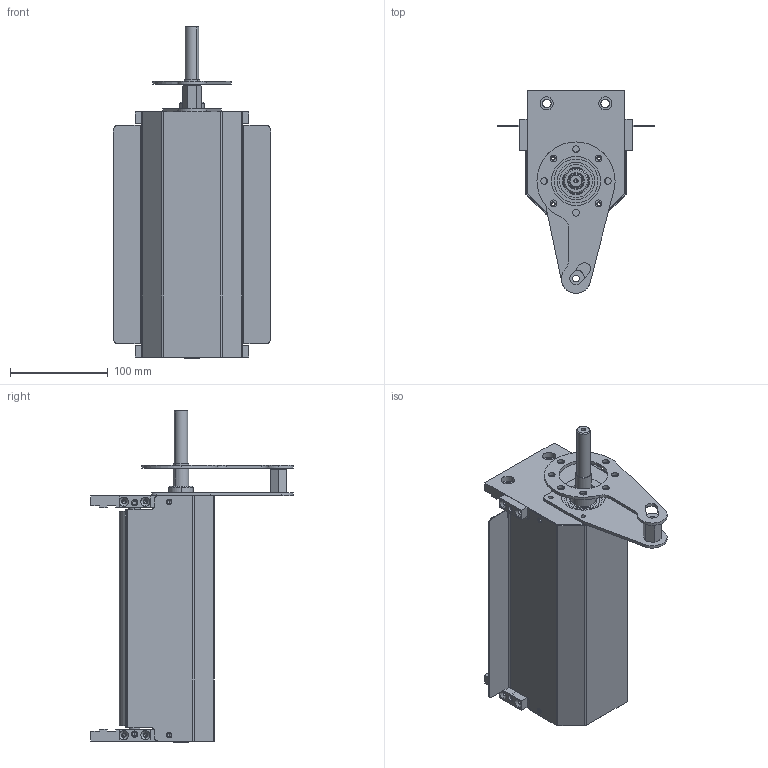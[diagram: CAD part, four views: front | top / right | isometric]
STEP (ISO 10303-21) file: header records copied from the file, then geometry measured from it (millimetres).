
FILE_DESCRIPTION (( 'STEP AP203' ), '1' );
FILE_NAME ('084.030.KC.30.200.STEP', '2019-07-29T10:02:15', ( '' ), ( '' ), 'SwSTEP 2.0', 'SolidWorks 2018', '' );
FILE_SCHEMA (( 'CONFIG_CONTROL_DESIGN' ));
Length unit declared in the file: millimetre
Products named in the file (16): 084.807.005; 084.802.036; 084.031.017; 356.001.003; 084.802.027; 356.095.003; 084.031.016; 084.030.KC.30.200; 084.031.015; 084.031.004; 084.031.014_Default<A macchina>; 084.802.017_084.802.017; 356.095.005-4_Default<A macchina>; 356.001.004-5; 084.802.016_084.802.016; 084.801.022
Assembly tree (25 placements, depth 2):
  084.030.KC.30.200
    084.031.015  x2
    084.031.016  x2
    084.031.004
    084.031.017
    084.031.014_Default<A macchina>
    084.807.005
    084.802.036  x4
    356.095.005-4_Default<A macchina>  x2
    084.802.017_084.802.017
    084.802.016_084.802.016
    356.001.004-5
    356.001.003  x2
    356.095.003  x4
    084.801.022
    084.802.027
Bounding box: 161 x 207.5 x 340 mm (x, y, z)
Volume: 749556.3 mm3; surface area: 515495.3 mm2
Topology: 31 solids, 37 shells, 884 faces, 2122 edges, 1325 vertices
Faces by surface type: cylinder 429, plane 279, torus 92, cone 76, sphere 8
Entity records: 19037 total; most frequent: CARTESIAN_POINT 3372, DIRECTION 3127, ORIENTED_EDGE 2670, EDGE_CURVE 1335, AXIS2_PLACEMENT_3D 1260, VERTEX_POINT 849, EDGE_LOOP 682, CIRCLE 676
